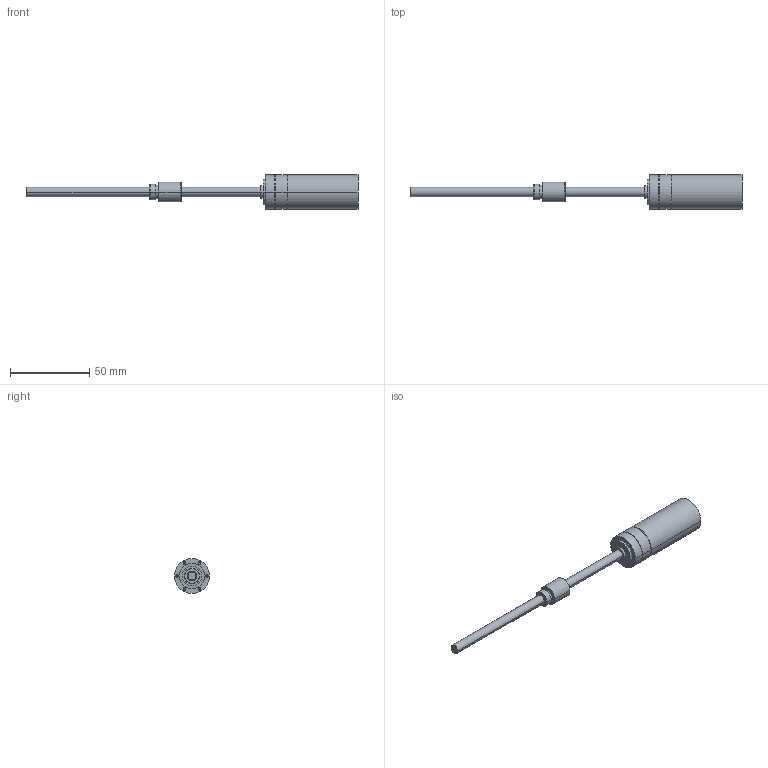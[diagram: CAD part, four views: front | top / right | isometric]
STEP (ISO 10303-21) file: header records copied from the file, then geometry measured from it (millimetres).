
FILE_DESCRIPTION((''),'2;1');
FILE_NAME('363845_GP22S_M-4ST','2016-10-05T',('mmagpetk'),(''),'CREO PARAMETRIC BY PTC INC, 2016050','CREO PARAMETRIC BY PTC INC, 2016050','');
FILE_SCHEMA(('CONFIG_CONTROL_DESIGN'));
Length unit declared in the file: millimetre
Products named in the file (1): 363845_GP22S_M-4ST
Bounding box: 209.4 x 22 x 22 mm (x, y, z)
Volume: 27513 mm3; surface area: 8581.3 mm2
Topology: 1 solids, 1 shells, 70 faces, 150 edges, 84 vertices
Faces by surface type: cylinder 34, cone 26, plane 10
Entity records: 2337 total; most frequent: DIRECTION 356, CARTESIAN_POINT 292, ORIENTED_EDGE 276, AXIS2_PLACEMENT_3D 148, PRESENTATION_STYLE_ASSIGNMENT 139, STYLED_ITEM 139, CURVE_STYLE 138, EDGE_CURVE 138
